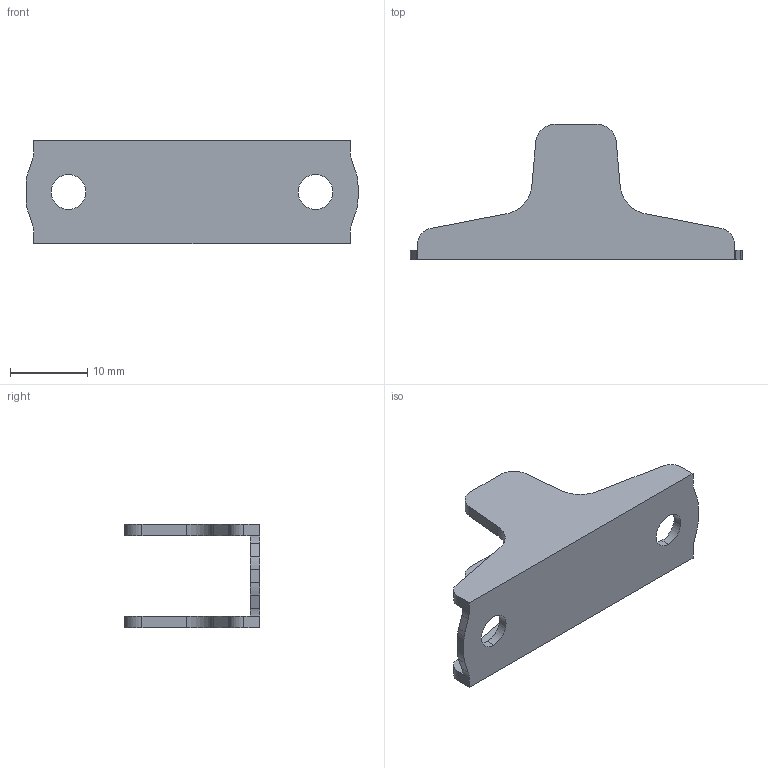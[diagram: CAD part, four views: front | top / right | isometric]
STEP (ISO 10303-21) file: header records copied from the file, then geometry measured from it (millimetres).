
FILE_DESCRIPTION (( 'STEP AP214' ), '1' );
FILE_NAME ('SE00YQ.STEP', '2021-04-10T01:59:27', ( 'Windows 蚚誧' ), ( '' ), 'SwSTEP 2.0', 'SolidWorks 2018', '' );
FILE_SCHEMA (( 'AUTOMOTIVE_DESIGN' ));
Length unit declared in the file: millimetre
Products named in the file (1): SE00YQ
Bounding box: 43 x 17.5 x 13.4 mm (x, y, z)
Volume: 1537.6 mm3; surface area: 2480.7 mm2
Topology: 1 solids, 1 shells, 50 faces, 140 edges, 92 vertices
Faces by surface type: plane 26, cylinder 24
Entity records: 1838 total; most frequent: DIRECTION 290, CARTESIAN_POINT 283, ORIENTED_EDGE 280, EDGE_CURVE 140, AXIS2_PLACEMENT_3D 99, VECTOR 92, LINE 92, VERTEX_POINT 92
